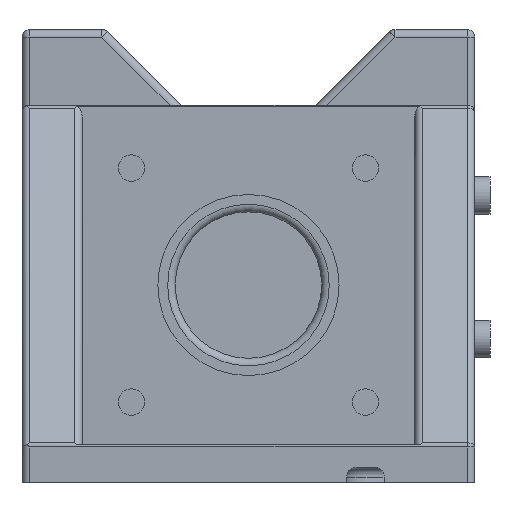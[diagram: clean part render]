
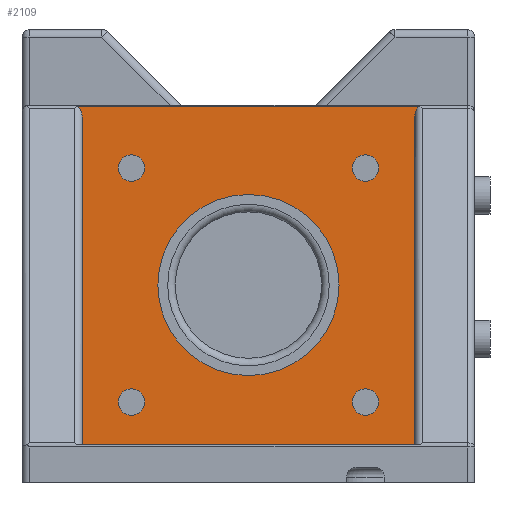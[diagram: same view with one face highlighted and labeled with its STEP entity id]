
A CAD part, left-side view. The second image highlights one B-rep face of the part: STEP entity #2109.
In plain terms, the highlighted planar face has unit normal (-1, 0, 0).
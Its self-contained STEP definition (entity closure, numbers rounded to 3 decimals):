
#37=ELLIPSE('',#2339,1.803,1.);
#38=ELLIPSE('',#2340,1.803,1.);
#112=LINE('',#3501,#242);
#113=LINE('',#3504,#243);
#116=LINE('',#3510,#246);
#117=LINE('',#3512,#247);
#118=LINE('',#3514,#248);
#119=LINE('',#3516,#249);
#120=LINE('',#3520,#250);
#121=LINE('',#3523,#251);
#242=VECTOR('',#2809,10.);
#243=VECTOR('',#2812,10.);
#246=VECTOR('',#2817,10.);
#247=VECTOR('',#2818,10.);
#248=VECTOR('',#2819,10.);
#249=VECTOR('',#2820,10.);
#250=VECTOR('',#2823,10.);
#251=VECTOR('',#2826,10.);
#324=PLANE('',#2338);
#468=FACE_BOUND('',#744,.T.);
#469=FACE_BOUND('',#745,.T.);
#470=FACE_BOUND('',#746,.T.);
#471=FACE_BOUND('',#747,.T.);
#472=FACE_BOUND('',#748,.T.);
#575=FACE_OUTER_BOUND('',#743,.T.);
#743=EDGE_LOOP('',(#1700,#1701,#1702,#1703,#1704,#1705,#1706,#1707,#1708,
#1709));
#744=EDGE_LOOP('',(#1710));
#745=EDGE_LOOP('',(#1711));
#746=EDGE_LOOP('',(#1712));
#747=EDGE_LOOP('',(#1713));
#748=EDGE_LOOP('',(#1714));
#943=CIRCLE('',#2341,1.75);
#944=CIRCLE('',#2342,1.75);
#945=CIRCLE('',#2343,1.75);
#946=CIRCLE('',#2344,1.75);
#947=CIRCLE('',#2345,12.);
#1097=VERTEX_POINT('',#3493);
#1099=VERTEX_POINT('',#3499);
#1100=VERTEX_POINT('',#3503);
#1102=VERTEX_POINT('',#3509);
#1103=VERTEX_POINT('',#3511);
#1104=VERTEX_POINT('',#3513);
#1105=VERTEX_POINT('',#3515);
#1106=VERTEX_POINT('',#3517);
#1107=VERTEX_POINT('',#3519);
#1108=VERTEX_POINT('',#3521);
#1109=VERTEX_POINT('',#3524);
#1110=VERTEX_POINT('',#3526);
#1111=VERTEX_POINT('',#3528);
#1112=VERTEX_POINT('',#3530);
#1113=VERTEX_POINT('',#3532);
#1331=EDGE_CURVE('',#1099,#1097,#112,.T.);
#1332=EDGE_CURVE('',#1100,#1097,#113,.T.);
#1335=EDGE_CURVE('',#1102,#1099,#116,.T.);
#1336=EDGE_CURVE('',#1103,#1102,#117,.T.);
#1337=EDGE_CURVE('',#1103,#1104,#118,.T.);
#1338=EDGE_CURVE('',#1104,#1105,#119,.T.);
#1339=EDGE_CURVE('',#1105,#1106,#37,.T.);
#1340=EDGE_CURVE('',#1106,#1107,#120,.T.);
#1341=EDGE_CURVE('',#1108,#1107,#38,.F.);
#1342=EDGE_CURVE('',#1108,#1100,#121,.T.);
#1343=EDGE_CURVE('',#1109,#1109,#943,.T.);
#1344=EDGE_CURVE('',#1110,#1110,#944,.T.);
#1345=EDGE_CURVE('',#1111,#1111,#945,.T.);
#1346=EDGE_CURVE('',#1112,#1112,#946,.T.);
#1347=EDGE_CURVE('',#1113,#1113,#947,.T.);
#1700=ORIENTED_EDGE('',*,*,#1331,.F.);
#1701=ORIENTED_EDGE('',*,*,#1335,.F.);
#1702=ORIENTED_EDGE('',*,*,#1336,.F.);
#1703=ORIENTED_EDGE('',*,*,#1337,.T.);
#1704=ORIENTED_EDGE('',*,*,#1338,.T.);
#1705=ORIENTED_EDGE('',*,*,#1339,.T.);
#1706=ORIENTED_EDGE('',*,*,#1340,.T.);
#1707=ORIENTED_EDGE('',*,*,#1341,.F.);
#1708=ORIENTED_EDGE('',*,*,#1342,.T.);
#1709=ORIENTED_EDGE('',*,*,#1332,.T.);
#1710=ORIENTED_EDGE('',*,*,#1343,.T.);
#1711=ORIENTED_EDGE('',*,*,#1344,.T.);
#1712=ORIENTED_EDGE('',*,*,#1345,.T.);
#1713=ORIENTED_EDGE('',*,*,#1346,.T.);
#1714=ORIENTED_EDGE('',*,*,#1347,.T.);
#2109=ADVANCED_FACE('',(#575,#468,#469,#470,#471,#472),#324,.T.);
#2338=AXIS2_PLACEMENT_3D('',#3508,#2815,#2816);
#2339=AXIS2_PLACEMENT_3D('',#3518,#2821,#2822);
#2340=AXIS2_PLACEMENT_3D('',#3522,#2824,#2825);
#2341=AXIS2_PLACEMENT_3D('',#3525,#2827,#2828);
#2342=AXIS2_PLACEMENT_3D('',#3527,#2829,#2830);
#2343=AXIS2_PLACEMENT_3D('',#3529,#2831,#2832);
#2344=AXIS2_PLACEMENT_3D('',#3531,#2833,#2834);
#2345=AXIS2_PLACEMENT_3D('',#3533,#2835,#2836);
#2809=DIRECTION('',(0.,0.,1.));
#2812=DIRECTION('',(0.,1.,0.));
#2815=DIRECTION('center_axis',(-1.,0.,0.));
#2816=DIRECTION('ref_axis',(0.,-1.,0.));
#2817=DIRECTION('',(0.,1.,0.));
#2818=DIRECTION('',(0.,0.,-1.));
#2819=DIRECTION('',(0.,1.,0.));
#2820=DIRECTION('',(0.,0.,1.));
#2821=DIRECTION('center_axis',(1.,0.,0.));
#2822=DIRECTION('ref_axis',(0.,0.,
1.));
#2823=DIRECTION('',(0.,1.,0.));
#2824=DIRECTION('center_axis',(1.,0.,0.));
#2825=DIRECTION('ref_axis',(0.,0.,
1.));
#2826=DIRECTION('',(0.,0.,-1.));
#2827=DIRECTION('center_axis',(1.,0.,0.));
#2828=DIRECTION('ref_axis',(0.,0.,1.));
#2829=DIRECTION('center_axis',(1.,0.,0.));
#2830=DIRECTION('ref_axis',(0.,0.,1.));
#2831=DIRECTION('center_axis',(1.,0.,0.));
#2832=DIRECTION('ref_axis',(0.,0.,1.));
#2833=DIRECTION('center_axis',(1.,0.,0.));
#2834=DIRECTION('ref_axis',(0.,0.,1.));
#2835=DIRECTION('center_axis',(1.,0.,0.));
#2836=DIRECTION('ref_axis',(0.,0.,-1.));
#3493=CARTESIAN_POINT('',(30.,59.,30.));
#3499=CARTESIAN_POINT('',(30.,59.,0.));
#3501=CARTESIAN_POINT('',(30.,59.,0.));
#3503=CARTESIAN_POINT('',(30.,52.,30.));
#3504=CARTESIAN_POINT('',(30.,60.,30.));
#3508=CARTESIAN_POINT('Origin',(30.,60.,0.));
#3509=CARTESIAN_POINT('',(30.,1.,0.));
#3510=CARTESIAN_POINT('',(30.,45.,0.));
#3511=CARTESIAN_POINT('',(30.,1.,30.));
#3512=CARTESIAN_POINT('',(30.,1.,0.));
#3513=CARTESIAN_POINT('',(30.,8.,30.));
#3514=CARTESIAN_POINT('',(30.,30.,30.));
#3515=CARTESIAN_POINT('',(30.,8.,43.197));
#3516=CARTESIAN_POINT('',(30.,8.,10.076));
#3517=CARTESIAN_POINT('',(30.,7.406,44.845));
#3518=CARTESIAN_POINT('Origin',(30.,7.,43.197));
#3519=CARTESIAN_POINT('',(30.,52.594,44.845));
#3520=CARTESIAN_POINT('',(30.,15.,44.845));
#3521=CARTESIAN_POINT('',(30.,52.,43.197));
#3522=CARTESIAN_POINT('Origin',(30.,53.,43.197));
#3523=CARTESIAN_POINT('',(30.,52.,10.076));
#3524=CARTESIAN_POINT('',(30.,45.5,3.9));
#3525=CARTESIAN_POINT('Origin',(30.,45.5,5.65));
#3526=CARTESIAN_POINT('',(30.,14.5,3.9));
#3527=CARTESIAN_POINT('Origin',(30.,14.5,5.65));
#3528=CARTESIAN_POINT('',(30.,14.5,34.9));
#3529=CARTESIAN_POINT('Origin',(30.,14.5,36.65));
#3530=CARTESIAN_POINT('',(30.,45.5,34.9));
#3531=CARTESIAN_POINT('Origin',(30.,45.5,36.65));
#3532=CARTESIAN_POINT('',(30.,30.,33.15));
#3533=CARTESIAN_POINT('Origin',(30.,30.,21.15));
